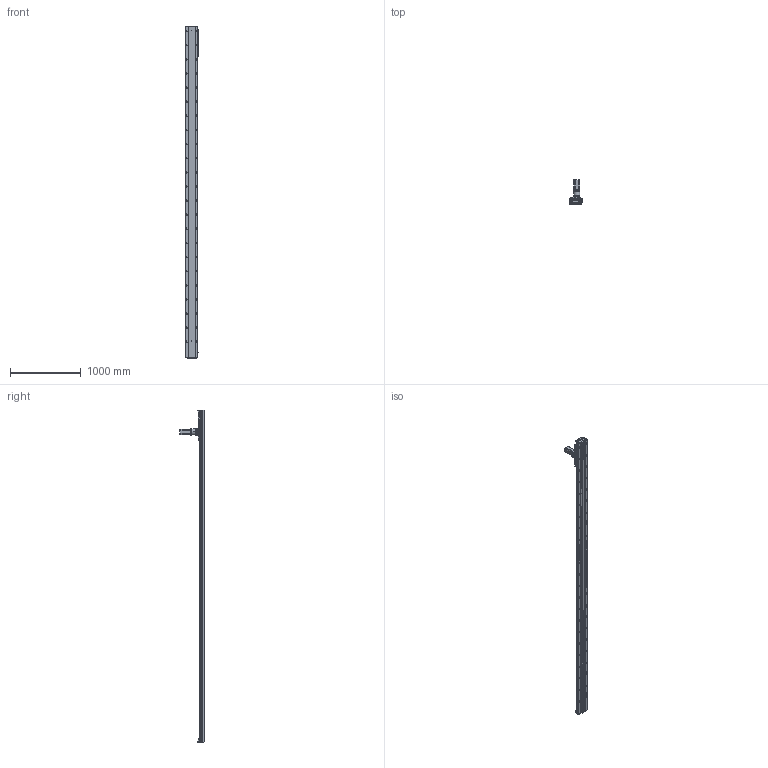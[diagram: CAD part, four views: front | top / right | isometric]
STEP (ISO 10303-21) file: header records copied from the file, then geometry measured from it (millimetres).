
FILE_DESCRIPTION (( 'STEP AP203' ), '1' );
FILE_NAME ('RY170-C-1000-UK.SLDASM_4200.step', '2021-03-03T00:50:08', ( '盈信电脑' ), ( '东莞市道滘镇水果街19号' ), 'SwSTEP 2.0', 'SolidWorks 2012', '' );
FILE_SCHEMA (( 'CONFIG_CONTROL_DESIGN' ));
Length unit declared in the file: millimetre
Products named in the file (13): TF080等撰; 左旋斜齿齿轮_M2_22齿_内孔20; RY170-喘沭賑輸; RY170-C-1000-UK.SLDASM_4200; 怢湛750W萇儂ㄗ80遺ㄘ; RY170-喘謫萇儂覃誹啣; RY170外置感应片(200共用）; RY170-喘沭滅袉蝶輸; RY170-1000-喘沭耀郪絳寢EGH20CA_4200; RY170綴裔啣ㄗ蜊秶ㄘ; 覜茼ん672; RY170-1000齿条模组型材底座_4200; 絳寢賑輸EGH20CA
Assembly tree (22 placements, depth 2):
  RY170-C-1000-UK.SLDASM_4200
    RY170-1000齿条模组型材底座_4200
    絳寢賑輸EGH20CA  x6
    RY170-1000-喘沭耀郪絳寢EGH20CA_4200  x2
    RY170綴裔啣ㄗ蜊秶ㄘ  x2
    覜茼ん672  x3
    RY170外置感应片(200共用）
    RY170-喘謫萇儂覃誹啣
    怢湛750W萇儂ㄗ80遺ㄘ
    RY170-喘沭滅袉蝶輸  x2
    TF080等撰
    左旋斜齿齿轮_M2_22齿_内孔20
    RY170-喘沭賑輸
Bounding box: 188.7 x 343.5 x 4700 mm (x, y, z)
Volume: 22295335.3 mm3; surface area: 5884618.6 mm2
Topology: 24 solids, 24 shells, 5525 faces, 15882 edges, 10068 vertices
Faces by surface type: cylinder 2480, plane 2479, cone 512, bspline 50, torus 4
Entity records: 132104 total; most frequent: CARTESIAN_POINT 33286, ORIENTED_EDGE 20942, DIRECTION 19976, EDGE_CURVE 10471, AXIS2_PLACEMENT_3D 7527, VERTEX_POINT 6800, VECTOR 4922, LINE 4922
